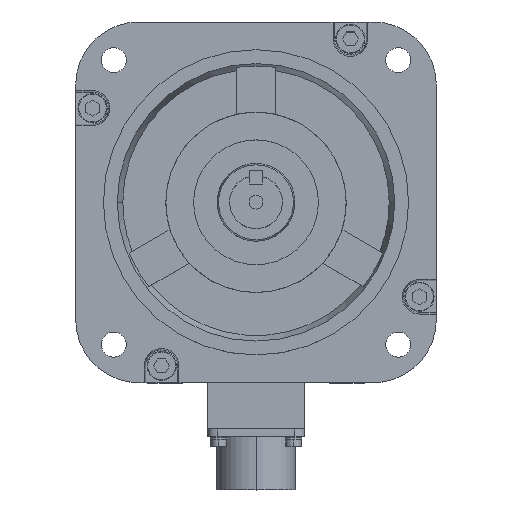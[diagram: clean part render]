
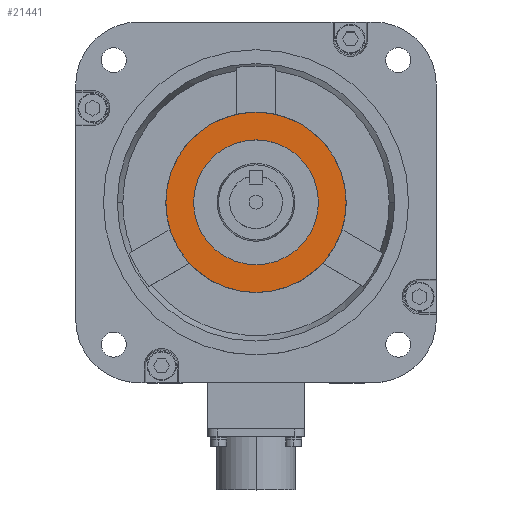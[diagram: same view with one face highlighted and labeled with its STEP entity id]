
A CAD part, top view. The second image highlights one B-rep face of the part: STEP entity #21441.
In plain terms, the highlighted planar face has unit normal (0, 0, 1).
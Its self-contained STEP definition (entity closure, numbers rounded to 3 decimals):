
#1208 = EDGE_CURVE ( 'NONE', #22472, #22892, #4974, .T. ) ;
#2617 = EDGE_CURVE ( 'NONE', #2630, #2618, #9610, .T. ) ;
#2618 = VERTEX_POINT ( 'NONE', #9601 ) ;
#2630 = VERTEX_POINT ( 'NONE', #9677 ) ;
#4970 = DIRECTION ( 'NONE',  ( 1., 0., 0. ) ) ;
#4971 = DIRECTION ( 'NONE',  ( 0., 0., 1. ) ) ;
#4972 = CARTESIAN_POINT ( 'NONE',  ( 0., 0., 6. ) ) ;
#4973 = AXIS2_PLACEMENT_3D ( 'NONE', #4972, #4971, #4970 ) ;
#4974 = CIRCLE ( 'NONE', #4973, 32.5 ) ;
#6055 = CARTESIAN_POINT ( 'NONE',  ( -32.5, 0., 6. ) ) ;
#7571 = CARTESIAN_POINT ( 'NONE',  ( 32.5, 0., 6. ) ) ;
#8024 = DIRECTION ( 'NONE',  ( 1., 0., 0. ) ) ;
#8025 = DIRECTION ( 'NONE',  ( 0., 0., 1. ) ) ;
#8026 = CARTESIAN_POINT ( 'NONE',  ( 0., 0., 6. ) ) ;
#8028 = AXIS2_PLACEMENT_3D ( 'NONE', #8026, #8025, #8024 ) ;
#8029 = CIRCLE ( 'NONE', #8028, 32.5 ) ;
#9601 = CARTESIAN_POINT ( 'NONE',  ( 22.5, 0., 6. ) ) ;
#9602 = DIRECTION ( 'NONE',  ( 1., 0., 0. ) ) ;
#9604 = DIRECTION ( 'NONE',  ( 0., 0., 1. ) ) ;
#9606 = CARTESIAN_POINT ( 'NONE',  ( 0., 0., 6. ) ) ;
#9608 = AXIS2_PLACEMENT_3D ( 'NONE', #9606, #9604, #9602 ) ;
#9610 = CIRCLE ( 'NONE', #9608, 22.5 ) ;
#9677 = CARTESIAN_POINT ( 'NONE',  ( -22.5, 0., 6. ) ) ;
#18029 = DIRECTION ( 'NONE',  ( 1., 0., 0. ) ) ;
#18030 = DIRECTION ( 'NONE',  ( 0., 0., 1. ) ) ;
#18031 = CARTESIAN_POINT ( 'NONE',  ( 0., 0., 6. ) ) ;
#18033 = AXIS2_PLACEMENT_3D ( 'NONE', #18031, #18030, #18029 ) ;
#18035 = CIRCLE ( 'NONE', #18033, 22.5 ) ;
#18122 = DIRECTION ( 'NONE',  ( 1., 0., 0. ) ) ;
#18124 = DIRECTION ( 'NONE',  ( 0., 0., 1. ) ) ;
#18125 = CARTESIAN_POINT ( 'NONE',  ( 0., 0., 6. ) ) ;
#18126 = AXIS2_PLACEMENT_3D ( 'NONE', #18125, #18124, #18122 ) ;
#18128 = PLANE ( 'NONE',  #18126 ) ;
#18129 = FACE_OUTER_BOUND ( 'NONE', #22425, .T. ) ;
#18137 = FACE_BOUND ( 'NONE', #21382, .T. ) ;
#21382 = EDGE_LOOP ( 'NONE', ( #22477, #22478 ) ) ;
#21425 = EDGE_CURVE ( 'NONE', #2618, #2630, #18035, .T. ) ;
#21441 = ADVANCED_FACE ( 'NONE', ( #18137, #18129 ), #18128, .T. ) ;
#22144 = ORIENTED_EDGE ( 'NONE', *, *, #1208, .T. ) ;
#22425 = EDGE_LOOP ( 'NONE', ( #22710, #22144 ) ) ;
#22472 = VERTEX_POINT ( 'NONE', #6055 ) ;
#22477 = ORIENTED_EDGE ( 'NONE', *, *, #21425, .F. ) ;
#22478 = ORIENTED_EDGE ( 'NONE', *, *, #2617, .F. ) ;
#22710 = ORIENTED_EDGE ( 'NONE', *, *, #23037, .T. ) ;
#22892 = VERTEX_POINT ( 'NONE', #7571 ) ;
#23037 = EDGE_CURVE ( 'NONE', #22892, #22472, #8029, .T. ) ;
